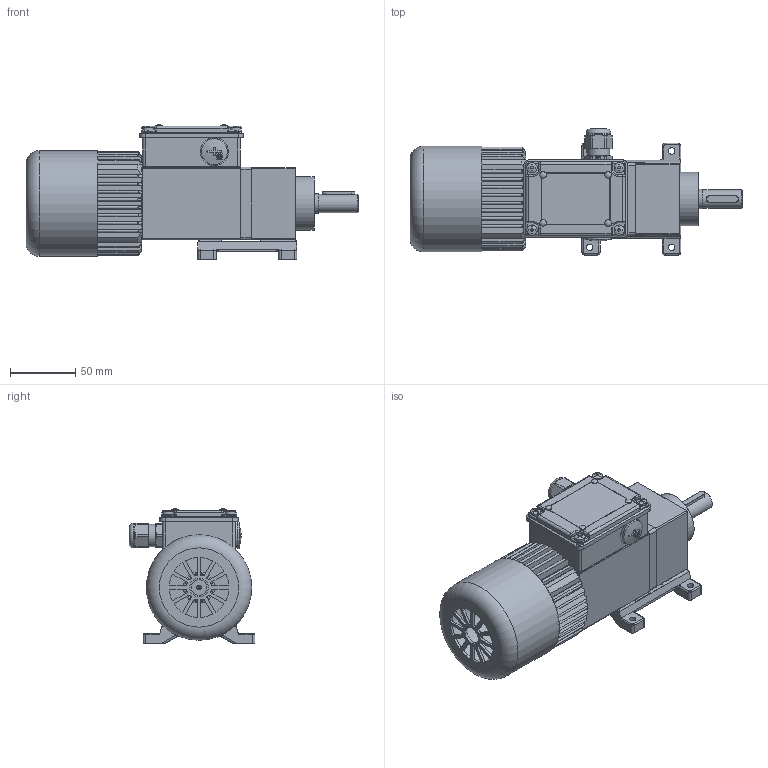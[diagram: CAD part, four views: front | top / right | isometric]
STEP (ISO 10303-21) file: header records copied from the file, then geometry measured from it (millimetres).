
FILE_DESCRIPTION(/* description */ (''),/* implementation_level */ '2;1');
FILE_NAME(/* name */ 'C:\Users\giuseppe.caruso.MINIMOTOR\Desktop\ACE...B3.stp',/* time_stamp */ '2014-12-16T15:45:06+01:00',/* author */ ('giuseppe.caruso'),/* organization */ (''),/* preprocessor_version */ 'ST-DEVELOPER v15.6',/* originating_system */ 'Autodesk Inventor 2015',/* authorisation */ '');
FILE_SCHEMA (('CONFIG_CONTROL_DESIGN'));
Length unit declared in the file: millimetre
Products named in the file (28): CRT002; VTS516; RND005A; VCE445; CHI005; RIV014I; VTC410S; VTC406; RST004; VTC306; BOC001; TPP001; SRD040; CPR042; SPN002; RAD040A; CPV050; GRN012; CPB005A; TRG064; CPM005A; TRG001; GRN035; TPP009; SRD014; ALR063; PIE030; ACE 72T 122,1 B3
Assembly tree (43 placements, depth 2):
  ACE 72T 122,1 B3
    CRT002
    VTS516  x4
    RND005A  x2
    VCE445  x4
    CHI005
    RIV014I  x4
    VTC410S  x4
    VTC406
    RST004
    VTC306  x4
    BOC001
    TPP001
    SRD040
    CPR042
    SPN002
    RAD040A
    CPV050
    GRN012
    CPB005A
    TRG064
    CPM005A
    TRG001
    GRN035
    TPP009
    SRD014
    ALR063
    PIE030
Bounding box: 255.1 x 96.8 x 103.67 mm (x, y, z)
Volume: 395312.3 mm3; surface area: 229948.3 mm2
Topology: 48 solids, 48 shells, 3786 faces, 10396 edges, 6771 vertices
Faces by surface type: cylinder 1681, plane 1633, cone 256, torus 149, sphere 35, bspline 32
Full cylindrical faces by diameter (mm): 2.459 x1, 2.6 x4, 2.621 x3, 2.7 x8, 2.729 x4, 3 x11, 3.242 x18, 3.25 x4, 3.3 x1, 3.4 x4, 3.8 x4, 4 x9, 4.134 x7, 4.3 x1, 4.5 x20, 5 x12, 5.1 x4, 5.3 x4, 5.5 x6, 6 x3, 6.561 x1, 6.9 x2, 7 x10, 7.5 x6, 7.6 x1, 8 x5, 9 x12, 9.64 x4, 10 x1, 11 x1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
Entity records: 115192 total; most frequent: CARTESIAN_POINT 31139, ORIENTED_EDGE 18014, DIRECTION 16304, EDGE_CURVE 9007, VERTEX_POINT 6054, AXIS2_PLACEMENT_3D 5945, LINE 4414, VECTOR 4414
